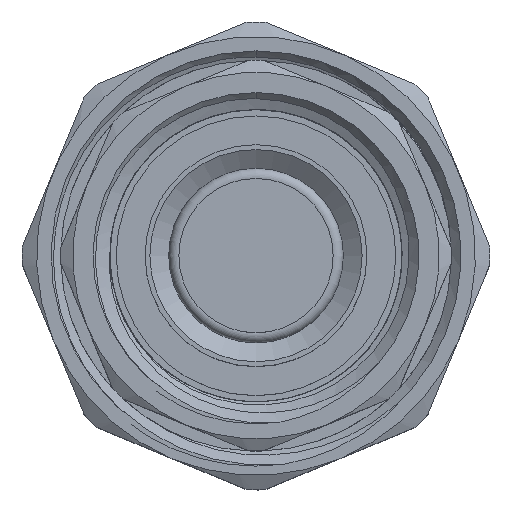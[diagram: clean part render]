
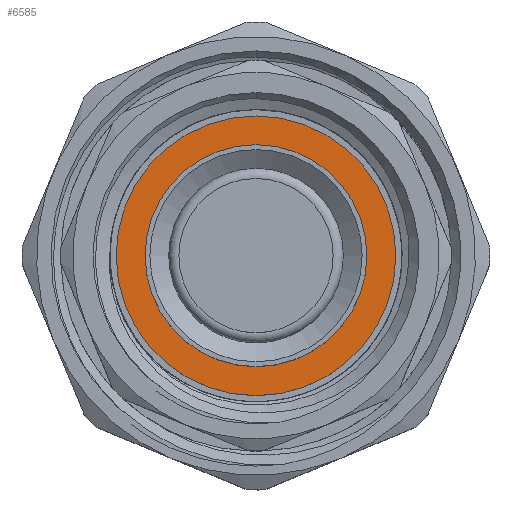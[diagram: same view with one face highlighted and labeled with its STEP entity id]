
A CAD part, top view. The second image highlights one B-rep face of the part: STEP entity #6585.
In plain terms, the highlighted planar face has unit normal (0, 0, 1).
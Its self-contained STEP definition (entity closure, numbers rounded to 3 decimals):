
#191=PLANE('',#7095);
#310=FACE_BOUND('',#959,.T.);
#592=FACE_OUTER_BOUND('',#958,.T.);
#958=EDGE_LOOP('',(#5640,#5641));
#959=EDGE_LOOP('',(#5642,#5643));
#1519=CIRCLE('',#7093,14.5);
#1520=CIRCLE('',#7094,14.5);
#1521=CIRCLE('',#7096,11.5);
#1522=CIRCLE('',#7097,11.5);
#3027=VERTEX_POINT('',#19800);
#3028=VERTEX_POINT('',#19801);
#3029=VERTEX_POINT('',#19806);
#3030=VERTEX_POINT('',#19807);
#3941=EDGE_CURVE('',#3027,#3028,#1519,.T.);
#3942=EDGE_CURVE('',#3028,#3027,#1520,.T.);
#3944=EDGE_CURVE('',#3029,#3030,#1521,.T.);
#3945=EDGE_CURVE('',#3030,#3029,#1522,.T.);
#5640=ORIENTED_EDGE('',*,*,#3941,.T.);
#5641=ORIENTED_EDGE('',*,*,#3942,.T.);
#5642=ORIENTED_EDGE('',*,*,#3944,.F.);
#5643=ORIENTED_EDGE('',*,*,#3945,.F.);
#6585=ADVANCED_FACE('',(#592,#310),#191,.T.);
#7093=AXIS2_PLACEMENT_3D('',#19802,#8441,#8442);
#7094=AXIS2_PLACEMENT_3D('',#19803,#8443,#8444);
#7095=AXIS2_PLACEMENT_3D('',#19805,#8446,#8447);
#7096=AXIS2_PLACEMENT_3D('',#19808,#8448,#8449);
#7097=AXIS2_PLACEMENT_3D('',#19809,#8450,#8451);
#8441=DIRECTION('center_axis',(0.,0.,
1.));
#8442=DIRECTION('ref_axis',(1.,0.,0.));
#8443=DIRECTION('center_axis',(0.,0.,
1.));
#8444=DIRECTION('ref_axis',(1.,0.,0.));
#8446=DIRECTION('center_axis',(0.,0.,
1.));
#8447=DIRECTION('ref_axis',(1.,0.,0.));
#8448=DIRECTION('center_axis',(0.,0.,
1.));
#8449=DIRECTION('ref_axis',(1.,0.,0.));
#8450=DIRECTION('center_axis',(0.,0.,
1.));
#8451=DIRECTION('ref_axis',(1.,0.,0.));
#19800=CARTESIAN_POINT('',(0.,-14.5,0.06));
#19801=CARTESIAN_POINT('',(0.,14.5,0.06));
#19802=CARTESIAN_POINT('Origin',(0.,0.,
0.06));
#19803=CARTESIAN_POINT('Origin',(0.,0.,
0.06));
#19805=CARTESIAN_POINT('Origin',(0.,-11.5,
0.06));
#19806=CARTESIAN_POINT('',(0.,-11.5,0.06));
#19807=CARTESIAN_POINT('',(0.,11.5,0.06));
#19808=CARTESIAN_POINT('Origin',(0.,0.,
0.06));
#19809=CARTESIAN_POINT('Origin',(0.,0.,
0.06));
